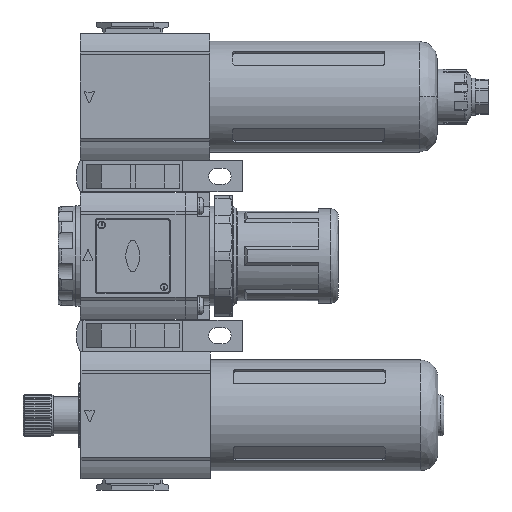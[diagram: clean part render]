
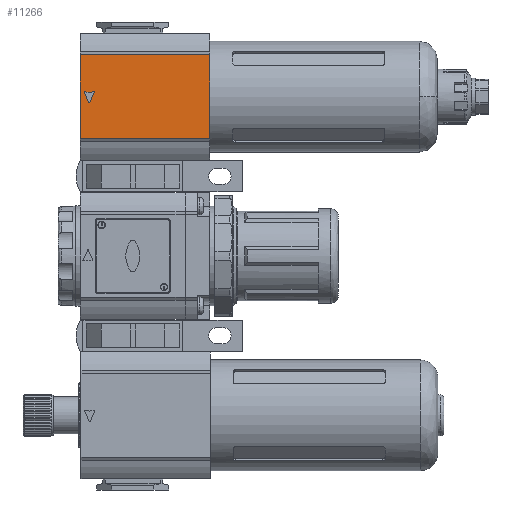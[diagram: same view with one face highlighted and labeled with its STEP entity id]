
A CAD part, left-side view. The second image highlights one B-rep face of the part: STEP entity #11266.
In plain terms, the highlighted planar face has unit normal (-1, 0, 0).
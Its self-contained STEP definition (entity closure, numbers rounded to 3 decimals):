
#849 = FACE_BOUND ( 'NONE', #72710, .T. ) ;
#875 = VERTEX_POINT ( 'NONE', #91716 ) ;
#2318 = ORIENTED_EDGE ( 'NONE', *, *, #22189, .T. ) ;
#3753 = CARTESIAN_POINT ( 'NONE',  ( -26.7, 15.517, 65.72 ) ) ;
#4001 = EDGE_CURVE ( 'NONE', #5494, #92021, #40579, .T. ) ;
#4292 = CARTESIAN_POINT ( 'NONE',  ( -26.7, 17.317, 61.62 ) ) ;
#4457 = VERTEX_POINT ( 'NONE', #55176 ) ;
#4596 = DIRECTION ( 'NONE',  ( 0., 0., 1. ) ) ;
#5494 = VERTEX_POINT ( 'NONE', #54950 ) ;
#5719 = CARTESIAN_POINT ( 'NONE',  ( -26.7, 15.7, 66. ) ) ;
#7174 = VECTOR ( 'NONE', #57644, 1000. ) ;
#8238 = CARTESIAN_POINT ( 'NONE',  ( -26.7, 19.3, 66. ) ) ;
#8502 = CIRCLE ( 'NONE', #60268, 0.2 ) ;
#9887 = DIRECTION ( 'NONE',  ( 0., 0., 1. ) ) ;
#11185 = VECTOR ( 'NONE', #79727, 1000. ) ;
#11266 = ADVANCED_FACE ( 'NONE', ( #60011, #849 ), #43085, .T. ) ;
#11608 = VERTEX_POINT ( 'NONE', #5719 ) ;
#12090 = AXIS2_PLACEMENT_3D ( 'NONE', #27530, #84844, #77373 ) ;
#12402 = ORIENTED_EDGE ( 'NONE', *, *, #30531, .F. ) ;
#12904 = LINE ( 'NONE', #78107, #7174 ) ;
#15326 = VECTOR ( 'NONE', #18232, 1000. ) ;
#16568 = VERTEX_POINT ( 'NONE', #4292 ) ;
#18232 = DIRECTION ( 'NONE',  ( 0., -1., 0. ) ) ;
#18759 = DIRECTION ( 'NONE',  ( 0., 0.402, -0.916 ) ) ;
#19908 = VERTEX_POINT ( 'NONE', #62367 ) ;
#21065 = ORIENTED_EDGE ( 'NONE', *, *, #74684, .T. ) ;
#22030 = CARTESIAN_POINT ( 'NONE',  ( -26.7, 21., 64. ) ) ;
#22189 = EDGE_CURVE ( 'NONE', #16568, #19908, #8502, .T. ) ;
#25049 = CARTESIAN_POINT ( 'NONE',  ( -26.7, -31., 47.131 ) ) ;
#26105 = CARTESIAN_POINT ( 'NONE',  ( -26.7, 17.5, 61.7 ) ) ;
#26857 = AXIS2_PLACEMENT_3D ( 'NONE', #87380, #86502, #81421 ) ;
#27464 = VERTEX_POINT ( 'NONE', #61206 ) ;
#27530 = CARTESIAN_POINT ( 'NONE',  ( -26.7, 17.5, 71.724 ) ) ;
#27971 = AXIS2_PLACEMENT_3D ( 'NONE', #57382, #85039, #63885 ) ;
#29222 = DIRECTION ( 'NONE',  ( 0., 0., 1. ) ) ;
#29849 = EDGE_CURVE ( 'NONE', #11608, #4457, #82011, .T. ) ;
#30531 = EDGE_CURVE ( 'NONE', #27464, #52813, #64059, .T. ) ;
#32233 = VECTOR ( 'NONE', #4596, 1000. ) ;
#32787 = ORIENTED_EDGE ( 'NONE', *, *, #4001, .T. ) ;
#33377 = DIRECTION ( 'NONE',  ( 1., 0., 0. ) ) ;
#34828 = EDGE_LOOP ( 'NONE', ( #70208, #67355, #12402, #39115 ) ) ;
#39115 = ORIENTED_EDGE ( 'NONE', *, *, #62244, .T. ) ;
#40492 = CARTESIAN_POINT ( 'NONE',  ( -26.7, -31., 80.869 ) ) ;
#40523 = DIRECTION ( 'NONE',  ( 0., 0., 1. ) ) ;
#40579 = CIRCLE ( 'NONE', #91695, 0.2 ) ;
#40802 = EDGE_CURVE ( 'NONE', #52813, #875, #12904, .T. ) ;
#41170 = LINE ( 'NONE', #40492, #32233 ) ;
#42070 = LINE ( 'NONE', #25049, #15326 ) ;
#43085 = PLANE ( 'NONE',  #27971 ) ;
#52813 = VERTEX_POINT ( 'NONE', #76859 ) ;
#54148 = CARTESIAN_POINT ( 'NONE',  ( -26.7, -31., 47.131 ) ) ;
#54950 = CARTESIAN_POINT ( 'NONE',  ( -26.7, 19.483, 65.72 ) ) ;
#55176 = CARTESIAN_POINT ( 'NONE',  ( -26.7, 15.517, 65.72 ) ) ;
#57104 = EDGE_CURVE ( 'NONE', #4457, #16568, #92255, .T. ) ;
#57382 = CARTESIAN_POINT ( 'NONE',  ( -26.7, -31., 80.869 ) ) ;
#57644 = DIRECTION ( 'NONE',  ( 0., -1., 0. ) ) ;
#58534 = CARTESIAN_POINT ( 'NONE',  ( -26.7, 19.3, 65.8 ) ) ;
#59479 = ORIENTED_EDGE ( 'NONE', *, *, #57104, .T. ) ;
#60011 = FACE_OUTER_BOUND ( 'NONE', #34828, .T. ) ;
#60268 = AXIS2_PLACEMENT_3D ( 'NONE', #26105, #33377, #40523 ) ;
#61206 = CARTESIAN_POINT ( 'NONE',  ( -26.7, 21., 47.131 ) ) ;
#61881 = VECTOR ( 'NONE', #29222, 1000. ) ;
#62244 = EDGE_CURVE ( 'NONE', #27464, #91751, #42070, .T. ) ;
#62367 = CARTESIAN_POINT ( 'NONE',  ( -26.7, 17.683, 61.62 ) ) ;
#63885 = DIRECTION ( 'NONE',  ( 0., 0., 1. ) ) ;
#64059 = LINE ( 'NONE', #22030, #61881 ) ;
#67355 = ORIENTED_EDGE ( 'NONE', *, *, #40802, .F. ) ;
#67930 = LINE ( 'NONE', #72274, #11185 ) ;
#68829 = VECTOR ( 'NONE', #18759, 1000. ) ;
#69369 = CIRCLE ( 'NONE', #12090, 6. ) ;
#70208 = ORIENTED_EDGE ( 'NONE', *, *, #77427, .T. ) ;
#71120 = ORIENTED_EDGE ( 'NONE', *, *, #29849, .T. ) ;
#71482 = ORIENTED_EDGE ( 'NONE', *, *, #89721, .T. ) ;
#72274 = CARTESIAN_POINT ( 'NONE',  ( -26.7, 17.683, 61.62 ) ) ;
#72710 = EDGE_LOOP ( 'NONE', ( #32787, #21065, #71120, #59479, #2318, #71482 ) ) ;
#74684 = EDGE_CURVE ( 'NONE', #92021, #11608, #69369, .T. ) ;
#76859 = CARTESIAN_POINT ( 'NONE',  ( -26.7, 21., 80.869 ) ) ;
#77373 = DIRECTION ( 'NONE',  ( 0., 0., 1. ) ) ;
#77427 = EDGE_CURVE ( 'NONE', #91751, #875, #41170, .T. ) ;
#78107 = CARTESIAN_POINT ( 'NONE',  ( -26.7, -31., 80.869 ) ) ;
#79727 = DIRECTION ( 'NONE',  ( 0., 0.402, 0.916 ) ) ;
#81421 = DIRECTION ( 'NONE',  ( 0., 0., 1. ) ) ;
#82011 = CIRCLE ( 'NONE', #26857, 0.2 ) ;
#84844 = DIRECTION ( 'NONE',  ( -1., 0., 0. ) ) ;
#85039 = DIRECTION ( 'NONE',  ( -1., 0., 0. ) ) ;
#86502 = DIRECTION ( 'NONE',  ( 1., 0., 0. ) ) ;
#87380 = CARTESIAN_POINT ( 'NONE',  ( -26.7, 15.7, 65.8 ) ) ;
#88011 = DIRECTION ( 'NONE',  ( 1., 0., 0. ) ) ;
#89721 = EDGE_CURVE ( 'NONE', #19908, #5494, #67930, .T. ) ;
#91695 = AXIS2_PLACEMENT_3D ( 'NONE', #58534, #88011, #9887 ) ;
#91716 = CARTESIAN_POINT ( 'NONE',  ( -26.7, -31., 80.869 ) ) ;
#91751 = VERTEX_POINT ( 'NONE', #54148 ) ;
#92021 = VERTEX_POINT ( 'NONE', #8238 ) ;
#92255 = LINE ( 'NONE', #3753, #68829 ) ;
